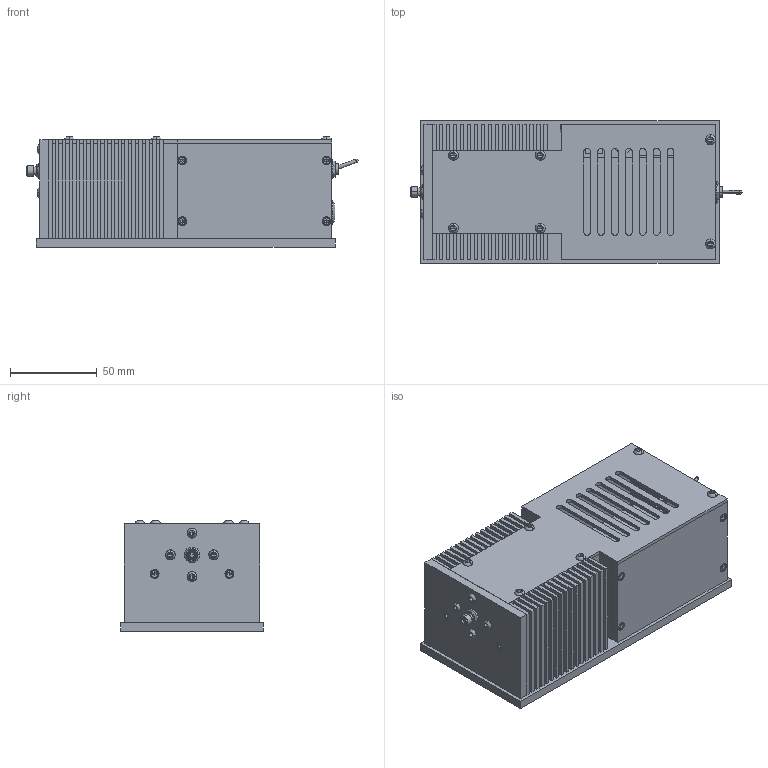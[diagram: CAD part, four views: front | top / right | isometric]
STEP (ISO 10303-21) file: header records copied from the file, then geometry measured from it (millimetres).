
FILE_DESCRIPTION (( 'STEP AP203' ), '1' );
FILE_NAME ('7ILT10ｹ簪ﾋﾗｨﾓﾃﾂｱﾎﾙｵﾆｹ籌ｴ.STEP', '2020-02-18T06:32:07', ( '' ), ( '' ), 'SwSTEP 2.0', 'SolidWorks 2018', '' );
FILE_SCHEMA (( 'CONFIG_CONTROL_DESIGN' ));
Length unit declared in the file: millimetre
Products named in the file (1): 7ILT10光纤专用卤钨灯光源
Bounding box: 191.16 x 82 x 63.65 mm (x, y, z)
Volume: 371309.4 mm3; surface area: 208703.3 mm2
Topology: 51 solids, 51 shells, 1603 faces, 3677 edges, 2210 vertices
Faces by surface type: plane 939, cylinder 374, cone 204, torus 52, sphere 34
Entity records: 44131 total; most frequent: DIRECTION 7990, CARTESIAN_POINT 7387, ORIENTED_EDGE 7138, EDGE_CURVE 3569, AXIS2_PLACEMENT_3D 2819, LINE 2352, VECTOR 2352, VERTEX_POINT 2208
